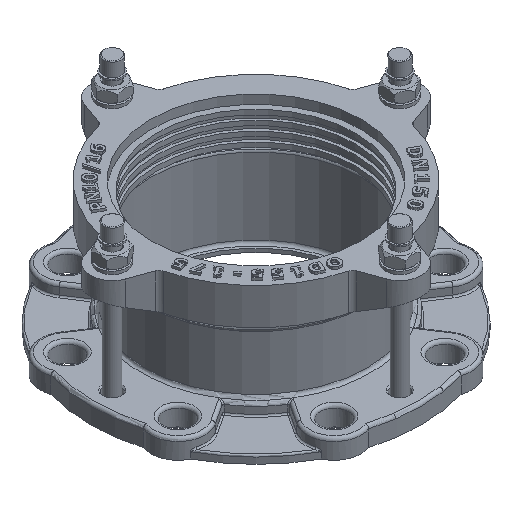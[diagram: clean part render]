
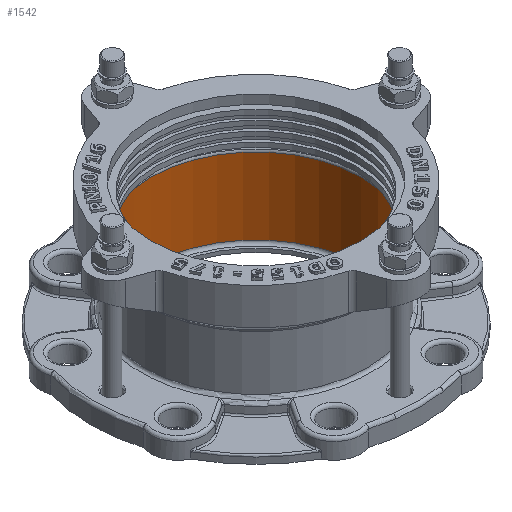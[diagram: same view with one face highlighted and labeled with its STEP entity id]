
A CAD part, isometric view. The second image highlights one B-rep face of the part: STEP entity #1542.
In plain terms, the highlighted cylindrical face has radius 87.5 mm (diameter 175 mm), a full revolution.
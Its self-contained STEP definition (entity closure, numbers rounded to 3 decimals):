
#1542=ADVANCED_FACE('',(#10188,#10190),#10192,.F.);
#10188=FACE_OUTER_BOUND('',#10189,.T.);
#10189=EDGE_LOOP('',(#15552));
#10190=FACE_OUTER_BOUND('',#10191,.T.);
#10191=EDGE_LOOP('',(#15553));
#10192=CYLINDRICAL_SURFACE('',#10193,87.5);
#10193=AXIS2_PLACEMENT_3D('',#10194,#10195,#10196);
#10194=CARTESIAN_POINT('',(0.,0.,3.));
#10195=DIRECTION('',(0.,0.,1.));
#10196=DIRECTION('',(-1.,0.,0.));
#15552=ORIENTED_EDGE('',*,*,#19976,.F.);
#15553=ORIENTED_EDGE('',*,*,#19975,.T.);
#19975=EDGE_CURVE('',#22589,#22589,#22590,.F.);
#19976=EDGE_CURVE('',#22591,#22591,#22592,.T.);
#22589=VERTEX_POINT('',#32183);
#22590=CIRCLE('',#32184,87.5);
#22591=VERTEX_POINT('',#32188);
#22592=CIRCLE('',#32189,87.5);
#32183=CARTESIAN_POINT('',(0.,87.5,5.5));
#32184=AXIS2_PLACEMENT_3D('',#32185,#32186,#32187);
#32185=CARTESIAN_POINT('',(0.,0.,5.5));
#32186=DIRECTION('',(0.,0.,1.));
#32187=DIRECTION('',(0.,1.,0.));
#32188=CARTESIAN_POINT('',(0.,87.5,68.75));
#32189=AXIS2_PLACEMENT_3D('',#32190,#32191,#32192);
#32190=CARTESIAN_POINT('',(0.,0.,68.75));
#32191=DIRECTION('',(0.,0.,-1.));
#32192=DIRECTION('',(0.,1.,0.));
